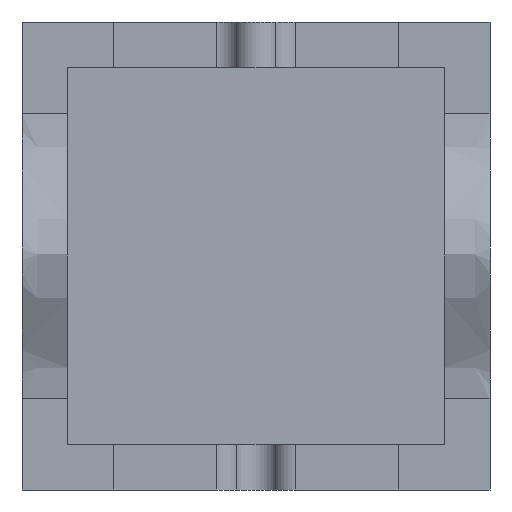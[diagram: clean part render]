
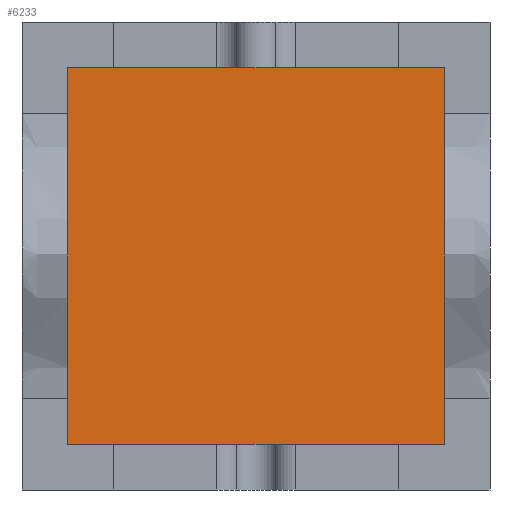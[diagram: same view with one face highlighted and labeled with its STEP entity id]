
A CAD part, front view. The second image highlights one B-rep face of the part: STEP entity #6233.
In plain terms, the highlighted planar face has unit normal (0, -1, 0).
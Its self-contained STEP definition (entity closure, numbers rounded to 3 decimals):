
#6107=CARTESIAN_POINT('Vertex',(-20.,-30.,-20.)) ;
#6112=CARTESIAN_POINT('Line Origine',(-20.,-30.,62.5)) ;
#6116=CARTESIAN_POINT('Vertex',(-20.,-30.,145.)) ;
#6143=CARTESIAN_POINT('Line Origine',(62.5,-30.,145.)) ;
#6147=CARTESIAN_POINT('Vertex',(145.,-30.,145.)) ;
#6174=CARTESIAN_POINT('Line Origine',(145.,-30.,62.5)) ;
#6178=CARTESIAN_POINT('Vertex',(145.,-30.,-20.)) ;
#6205=CARTESIAN_POINT('Line Origine',(62.5,-30.,-20.)) ;
#6222=CARTESIAN_POINT('Axis2P3D Location',(0.,-30.,0.)) ;
#6113=DIRECTION('Vector Direction',(0.,0.,-1.)) ;
#6144=DIRECTION('Vector Direction',(1.,0.,0.)) ;
#6175=DIRECTION('Vector Direction',(0.,0.,1.)) ;
#6206=DIRECTION('Vector Direction',(-1.,0.,0.)) ;
#6223=DIRECTION('Axis2P3D Direction',(0.,1.,0.)) ;
#6224=DIRECTION('Axis2P3D XDirection',(-1.,0.,0.)) ;
#6225=AXIS2_PLACEMENT_3D('Plane Axis2P3D',#6222,#6223,#6224) ;
#6228=ORIENTED_EDGE('',*,*,#6209,.F.) ;
#6229=ORIENTED_EDGE('',*,*,#6180,.F.) ;
#6230=ORIENTED_EDGE('',*,*,#6149,.F.) ;
#6231=ORIENTED_EDGE('',*,*,#6118,.F.) ;
#6114=VECTOR('Line Direction',#6113,1.) ;
#6145=VECTOR('Line Direction',#6144,1.) ;
#6176=VECTOR('Line Direction',#6175,1.) ;
#6207=VECTOR('Line Direction',#6206,1.) ;
#6233=ADVANCED_FACE('Cavity-molde',(#6232),#6226,.F.) ;
#6118=EDGE_CURVE('',#6108,#6117,#6115,.F.) ;
#6149=EDGE_CURVE('',#6117,#6148,#6146,.T.) ;
#6180=EDGE_CURVE('',#6148,#6179,#6177,.F.) ;
#6209=EDGE_CURVE('',#6179,#6108,#6208,.T.) ;
#6227=EDGE_LOOP('',(#6228,#6229,#6230,#6231)) ;
#6232=FACE_OUTER_BOUND('',#6227,.T.) ;
#6115=LINE('Line',#6112,#6114) ;
#6146=LINE('Line',#6143,#6145) ;
#6177=LINE('Line',#6174,#6176) ;
#6208=LINE('Line',#6205,#6207) ;
#6226=PLANE('',#6225) ;
#6108=VERTEX_POINT('',#6107) ;
#6117=VERTEX_POINT('',#6116) ;
#6148=VERTEX_POINT('',#6147) ;
#6179=VERTEX_POINT('',#6178) ;
